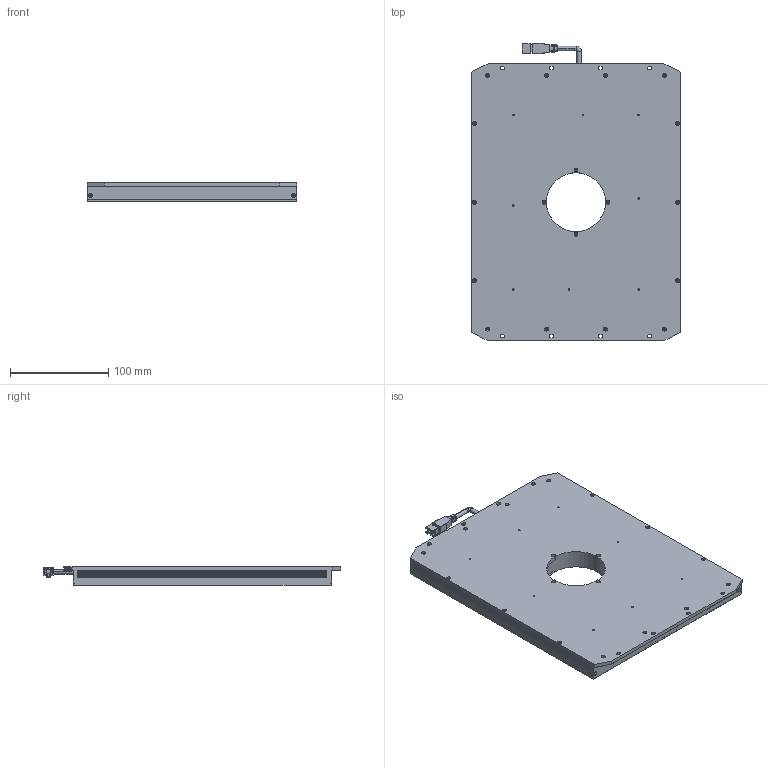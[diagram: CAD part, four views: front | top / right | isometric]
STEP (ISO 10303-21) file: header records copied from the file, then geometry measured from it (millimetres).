
FILE_DESCRIPTION((''),'2;1');
FILE_NAME('LS-LBES-H-250-200-X2','2022-11-04T11:55:19',('LumaSpec Vision'),('LumaSpec Vision'),'CREO PARAMETRIC BY PTC INC, 2020044','CREO PARAMETRIC BY PTC INC, 2020044','');
FILE_SCHEMA(('AUTOMOTIVE_DESIGN { 1 0 10303 214 1 1 1 1 }'));
Products named in the file (1): PRT0001
Bounding box: 213 x 302.75 x 19 mm (x, y, z)
Volume: 1021744.1 mm3; surface area: 152425.6 mm2
Topology: 1 solids, 79 shells, 2542 faces, 5993 edges, 3612 vertices
Faces by surface type: plane 1471, cylinder 646, cone 245, torus 91, extrusion 73, sphere 8, bspline 8
Entity records: 75279 total; most frequent: CARTESIAN_POINT 14704, DIRECTION 11931, ORIENTED_EDGE 11850, EDGE_CURVE 5925, AXIS2_PLACEMENT_3D 4006, VECTOR 3919, LINE 3846, VERTEX_POINT 3612
